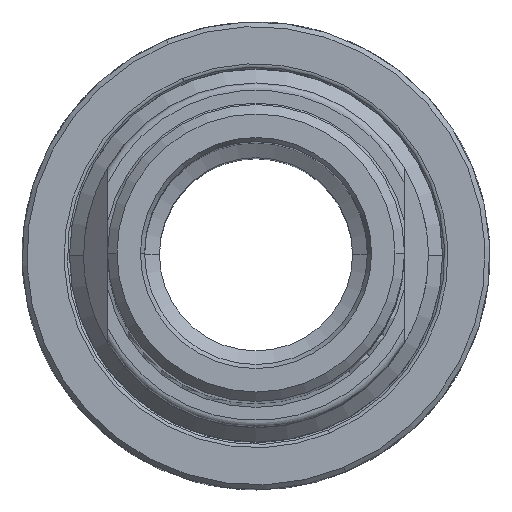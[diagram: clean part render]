
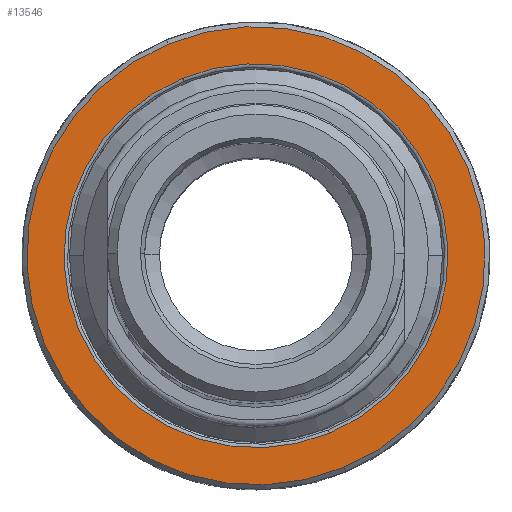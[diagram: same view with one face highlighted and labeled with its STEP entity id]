
A CAD part, top view. The second image highlights one B-rep face of the part: STEP entity #13546.
In plain terms, the highlighted planar face has unit normal (0, 0, 1).
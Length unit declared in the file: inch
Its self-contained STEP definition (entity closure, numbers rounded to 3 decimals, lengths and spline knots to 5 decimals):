
#101 = EDGE_CURVE ( 'NONE', #4831, #3834, #3273, .T. ) ;
#1174 = CIRCLE ( 'NONE', #14500, 0.80787 ) ;
#1749 = CARTESIAN_POINT ( 'NONE',  ( 0., 0., -6.61417 ) ) ;
#2191 = AXIS2_PLACEMENT_3D ( 'NONE', #9943, #11375, #13761 ) ;
#2229 = CARTESIAN_POINT ( 'NONE',  ( 0.36936, -0.89071, -6.61417 ) ) ;
#2374 = DIRECTION ( 'NONE',  ( 0., 0., 1. ) ) ;
#2482 = EDGE_CURVE ( 'NONE', #6515, #5629, #9013, .T. ) ;
#2536 = EDGE_LOOP ( 'NONE', ( #10455, #4392 ) ) ;
#3273 = CIRCLE ( 'NONE', #12768, 0.80787 ) ;
#3564 = CARTESIAN_POINT ( 'NONE',  ( 0.30946, -0.74626, -6.61417 ) ) ;
#3676 = ORIENTED_EDGE ( 'NONE', *, *, #2482, .F. ) ;
#3823 = DIRECTION ( 'NONE',  ( 0.383, -0.924, 0. ) ) ;
#3834 = VERTEX_POINT ( 'NONE', #3564 ) ;
#4111 = AXIS2_PLACEMENT_3D ( 'NONE', #16239, #9850, #16321 ) ;
#4392 = ORIENTED_EDGE ( 'NONE', *, *, #101, .F. ) ;
#4831 = VERTEX_POINT ( 'NONE', #14233 ) ;
#4856 = AXIS2_PLACEMENT_3D ( 'NONE', #1749, #12216, #10771 ) ;
#5629 = VERTEX_POINT ( 'NONE', #2229 ) ;
#5903 = CARTESIAN_POINT ( 'NONE',  ( -0.36936, 0.89071, -6.61417 ) ) ;
#6220 = PLANE ( 'NONE',  #2191 ) ;
#6482 = ORIENTED_EDGE ( 'NONE', *, *, #11428, .F. ) ;
#6515 = VERTEX_POINT ( 'NONE', #5903 ) ;
#7651 = DIRECTION ( 'NONE',  ( 0., 0., 1. ) ) ;
#8583 = FACE_OUTER_BOUND ( 'NONE', #13283, .T. ) ;
#9013 = CIRCLE ( 'NONE', #4111, 0.96425 ) ;
#9182 = CIRCLE ( 'NONE', #4856, 0.96425 ) ;
#9850 = DIRECTION ( 'NONE',  ( 0., 0., -1. ) ) ;
#9943 = CARTESIAN_POINT ( 'NONE',  ( 0., 0., -6.61417 ) ) ;
#10302 = CARTESIAN_POINT ( 'NONE',  ( 0., 0., -6.61417 ) ) ;
#10455 = ORIENTED_EDGE ( 'NONE', *, *, #15253, .F. ) ;
#10771 = DIRECTION ( 'NONE',  ( -0.383, 0.924, 0. ) ) ;
#11375 = DIRECTION ( 'NONE',  ( 0., 0., -1. ) ) ;
#11428 = EDGE_CURVE ( 'NONE', #5629, #6515, #9182, .T. ) ;
#11528 = DIRECTION ( 'NONE',  ( 0.383, -0.924, 0. ) ) ;
#12216 = DIRECTION ( 'NONE',  ( 0., 0., -1. ) ) ;
#12768 = AXIS2_PLACEMENT_3D ( 'NONE', #10302, #2374, #3823 ) ;
#13283 = EDGE_LOOP ( 'NONE', ( #3676, #6482 ) ) ;
#13546 = ADVANCED_FACE ( 'NONE', ( #15145, #8583 ), #6220, .F. ) ;
#13761 = DIRECTION ( 'NONE',  ( -0.383, 0.924, 0. ) ) ;
#13923 = CARTESIAN_POINT ( 'NONE',  ( 0., 0., -6.61417 ) ) ;
#14233 = CARTESIAN_POINT ( 'NONE',  ( -0.30946, 0.74626, -6.61417 ) ) ;
#14500 = AXIS2_PLACEMENT_3D ( 'NONE', #13923, #7651, #11528 ) ;
#15145 = FACE_BOUND ( 'NONE', #2536, .T. ) ;
#15253 = EDGE_CURVE ( 'NONE', #3834, #4831, #1174, .T. ) ;
#16239 = CARTESIAN_POINT ( 'NONE',  ( 0., 0., -6.61417 ) ) ;
#16321 = DIRECTION ( 'NONE',  ( -0.383, 0.924, 0. ) ) ;
